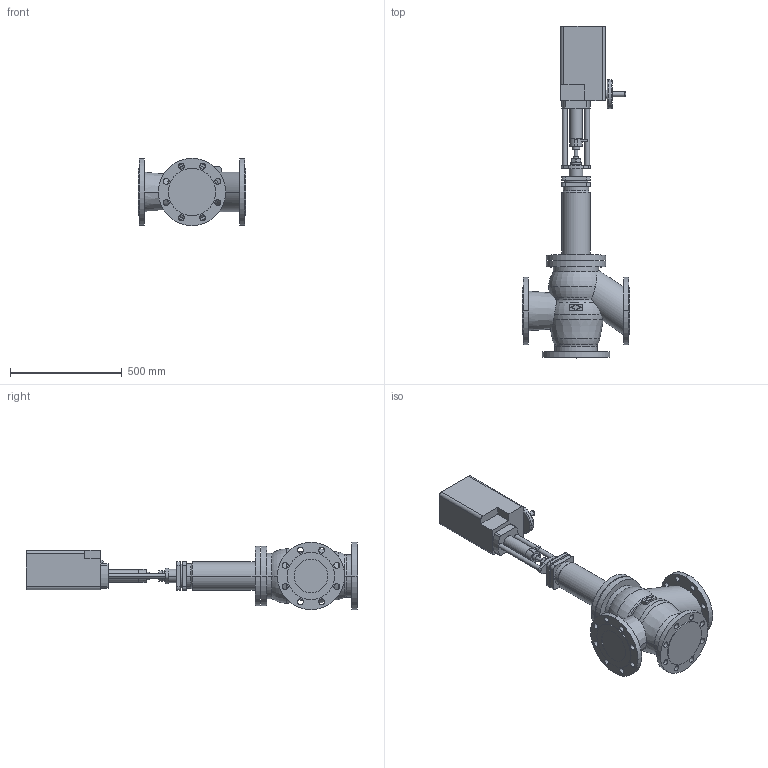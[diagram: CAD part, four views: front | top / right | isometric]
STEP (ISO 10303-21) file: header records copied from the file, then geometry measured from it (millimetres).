
FILE_DESCRIPTION(('OneSpaceDesigner STEP Export'),'2;1');
FILE_NAME('c000002469.stp','2006-09-21T11:58:16',(''),(''),'OneSpace Designer STEP processor for AP214 (Solid Model)','OneSpace Designer 13.20A 18-Aug-2005 (C) CoCreate Software GmbH','');
FILE_SCHEMA(('AUTOMOTIVE_DESIGN { 1 0 10303 214 1 1 1 1 }'));
Length unit declared in the file: millimetre
Products named in the file (2): 1; 2
Bounding box: 480 x 1483.7 x 300 mm (x, y, z)
Volume: 45951003.4 mm3; surface area: 1595115.2 mm2
Topology: 2 solids, 2 shells, 265 faces, 660 edges, 435 vertices
Faces by surface type: cylinder 130, plane 107, torus 22, cone 6
Entity records: 7417 total; most frequent: CARTESIAN_POINT 1448, ORIENTED_EDGE 1320, DIRECTION 1107, EDGE_CURVE 660, VERTEX_POINT 435, AXIS2_PLACEMENT_3D 402, EDGE_LOOP 349, VECTOR 303
